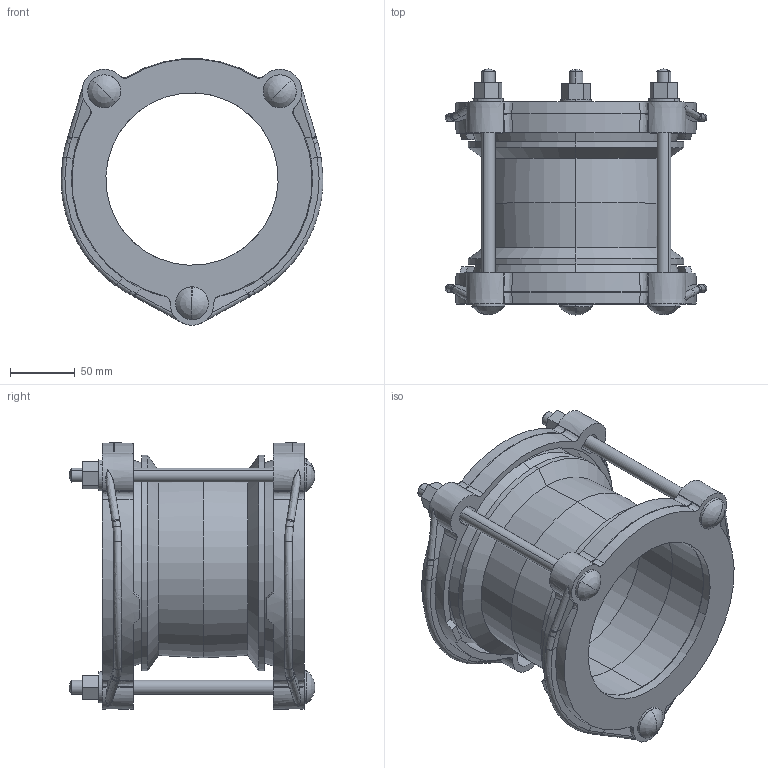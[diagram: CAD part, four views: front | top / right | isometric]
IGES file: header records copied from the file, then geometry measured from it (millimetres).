
Start section:  PTC IGES file: maxifit_107-132_alt.igs
Global section: file name: maxifit_107-132_alt.igs; native system: Creo Parametric by PTC Inc.; preprocessor: 2016130; author: MReader; organization: Unknown; date: 20180918.101237; units: millimetre
Bounding box: 202.9 x 190.33 x 206.47 mm (x, y, z)
Surface area: 296461.8 mm2 (no closed solid volume)
Topology: 0 solids, 0 shells, 308 faces, 1568 edges, 1556 vertices
Faces by surface type: bspline 172, revolution 136
